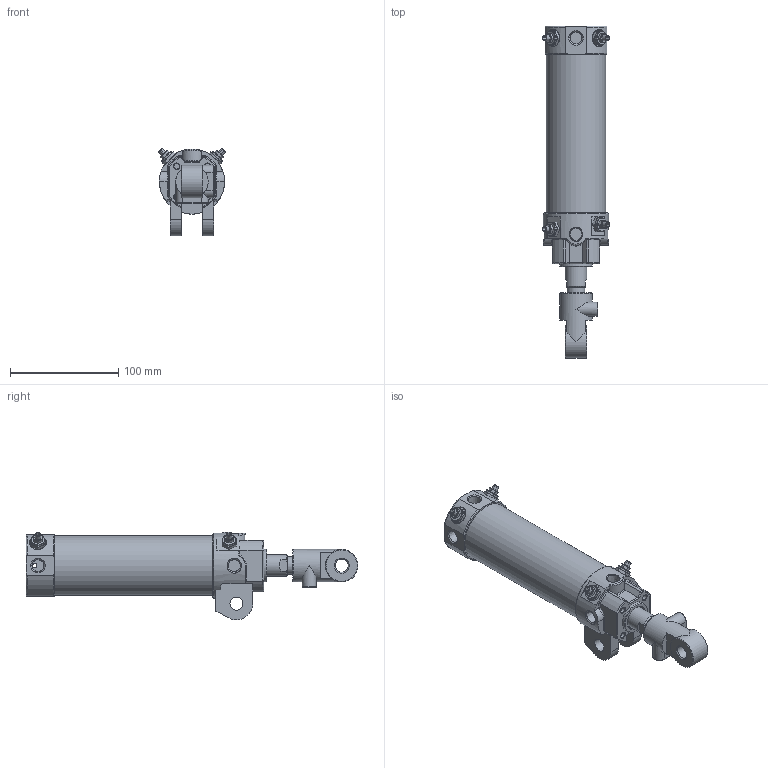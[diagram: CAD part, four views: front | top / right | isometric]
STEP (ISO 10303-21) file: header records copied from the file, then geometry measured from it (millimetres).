
FILE_DESCRIPTION((''),'2;1');
FILE_NAME('I:\3D電子目錄\氣缸\DCK\DCK\DCK-1B-50x100-I.stp','2008-02-26T14:29:17',('Administrator'),(''),'Autodesk Inventor 11','Autodesk Inventor 11','');
FILE_SCHEMA(('AUTOMOTIVE_DESIGN { 1 0 10303 214 1 1 1 1 }'));
Length unit declared in the file: millimetre
Products named in the file (6): DCK-1B-50-I; 緩衝針; 緩衝針-1; 緩衝針-201; 緩衝針-3
Assembly tree (8 placements, depth 3):
  DCK-1B-50-I
    DCK-1B-50-I
    緩衝針  x4
      緩衝針-1
      緩衝針-201
      緩衝針-3
Bounding box: 61.76 x 306 x 80.87 mm (x, y, z)
Volume: 275851.4 mm3; surface area: 118037.1 mm2
Topology: 16 solids, 16 shells, 617 faces, 1375 edges, 859 vertices
Faces by surface type: plane 227, cylinder 180, cone 141, torus 35, bspline 34
Full cylindrical faces by diameter (mm): 2 x2, 3 x4, 3.8 x2, 4 x6, 4.6 x4, 5 x8, 5.1 x4, 5.2 x12, 5.5 x4, 7.25 x1, 7.9 x4, 8 x2, 10.3 x1, 11.3 x1, 12 x5, 12.8 x4, 16 x3, 20 x1, 21 x1, 22 x2, 23 x1, 24.7 x1, 26 x1, 27 x1, 28 x1, 29 x1, 30 x3, 33 x1, 49.5 x1, 52 x2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
Entity records: 12811 total; most frequent: CARTESIAN_POINT 5086, DIRECTION 1580, ORIENTED_EDGE 1388, EDGE_CURVE 694, AXIS2_PLACEMENT_3D 690, EDGE_LOOP 570, VERTEX_POINT 506, FACE_OUTER_BOUND 368
